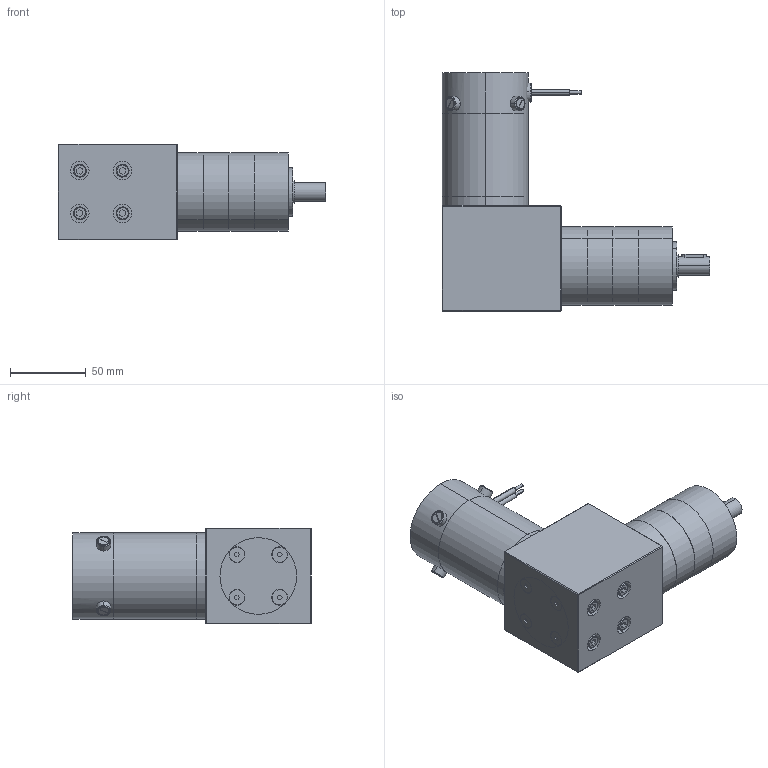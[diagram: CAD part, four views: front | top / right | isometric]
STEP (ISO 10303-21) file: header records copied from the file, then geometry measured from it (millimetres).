
FILE_DESCRIPTION (( 'STEP AP203' ), '1' );
FILE_NAME ('s22346gra3.step', '2018-12-07T19:58:51', ( '' ), ( '' ), 'SwSTEP 2.0', 'SolidWorks 2017', '' );
FILE_SCHEMA (( 'CONFIG_CONTROL_DESIGN' ));
Length unit declared in the file: inch
Products named in the file (1): s22346gra3
Bounding box: 177.37 x 157.68 x 63.5 mm (x, y, z)
Volume: 726860.8 mm3; surface area: 117148.5 mm2
Topology: 26 solids, 26 shells, 640 faces, 1375 edges, 852 vertices
Faces by surface type: plane 292, cylinder 236, cone 93, torus 11, sphere 8
Entity records: 17766 total; most frequent: CARTESIAN_POINT 3318, DIRECTION 3241, ORIENTED_EDGE 2718, EDGE_CURVE 1359, AXIS2_PLACEMENT_3D 1261, VERTEX_POINT 852, EDGE_LOOP 763, LINE 719
